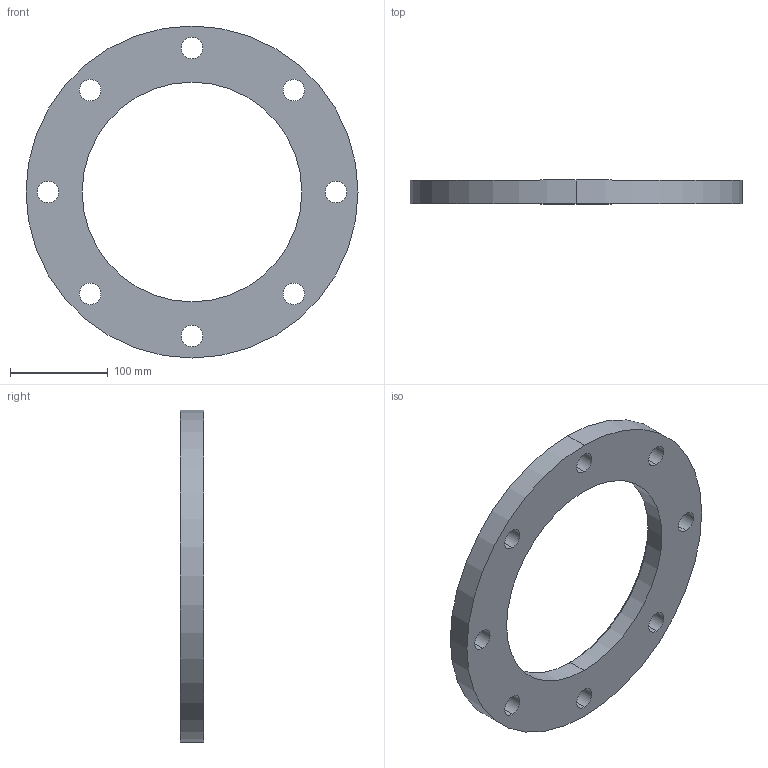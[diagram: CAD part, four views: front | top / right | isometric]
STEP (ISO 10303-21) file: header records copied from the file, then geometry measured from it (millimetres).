
FILE_DESCRIPTION (( 'STEP AP203' ), '1' );
FILE_NAME ('3D_R189_PN10_DN219.1_17669340.STEP', '2024-08-12T10:55:32', ( '' ), ( '' ), 'SwSTEP 2.0', 'SolidWorks 2024', '' );
FILE_SCHEMA (( 'CONFIG_CONTROL_DESIGN' ));
Length unit declared in the file: millimetre
Products named in the file (1): 3D_R189_PN10_DN219.1_17669340
Bounding box: 340 x 24 x 340 mm (x, y, z)
Volume: 1146042.5 mm3; surface area: 150215 mm2
Topology: 1 solids, 1 shells, 24 faces, 64 edges, 42 vertices
Faces by surface type: cylinder 20, cone 2, plane 2
Entity records: 887 total; most frequent: DIRECTION 156, CARTESIAN_POINT 131, ORIENTED_EDGE 128, AXIS2_PLACEMENT_3D 67, EDGE_CURVE 64, CIRCLE 42, EDGE_LOOP 42, VERTEX_POINT 42
